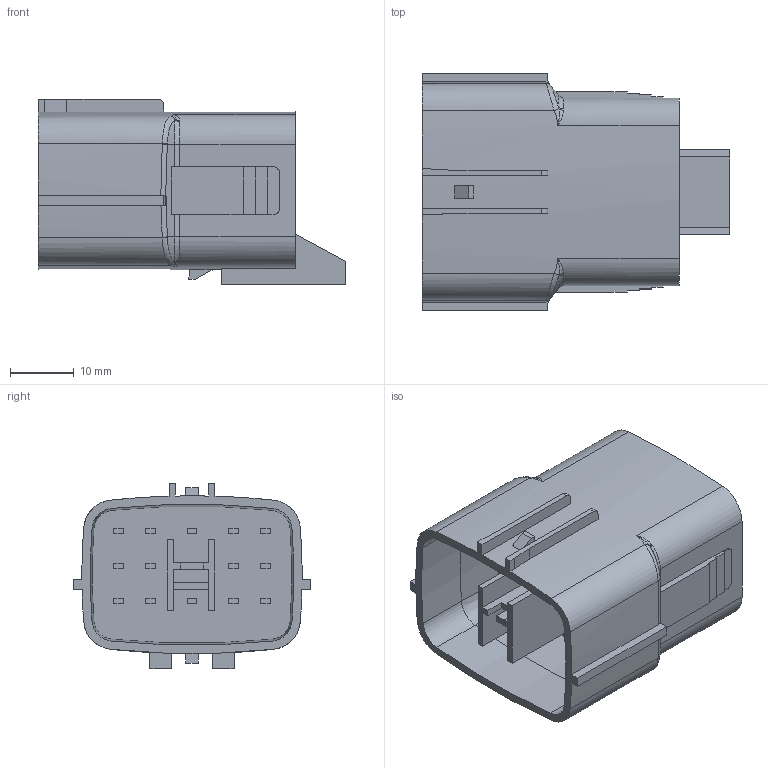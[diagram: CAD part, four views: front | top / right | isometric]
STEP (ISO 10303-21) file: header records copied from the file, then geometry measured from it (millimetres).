
FILE_DESCRIPTION(('CATIA V5 STEP Exchange','CAx-IF Rec.Pracs.--- Model Styling and Organization---1.2---2011-12-15'),'2;1');
FILE_NAME('N:\C-DAM_MyDesk\ENV\900093\6181-0629.stp','2015-08-18T02:17:13+00:00',('none'),('none'),'CATIA Version 5-6 Release 2012 SP4 HF74','CATIA V5 STEP AP214','none');
FILE_SCHEMA(('AUTOMOTIVE_DESIGN { 1 0 10303 214 1 1 1 1 }'));
Length unit declared in the file: millimetre
Products named in the file (1): 6181-0629
Bounding box: 48.2 x 37.1 x 29.1 mm (x, y, z)
Volume: 20335.9 mm3; surface area: 9596.3 mm2
Topology: 1 solids, 1 shells, 287 faces, 725 edges, 467 vertices
Faces by surface type: plane 187, cylinder 60, bspline 24, cone 12, torus 4
Entity records: 9134 total; most frequent: CARTESIAN_POINT 2746, ORIENTED_EDGE 1442, DIRECTION 1031, EDGE_CURVE 721, VECTOR 508, LINE 508, VERTEX_POINT 467, AXIS2_PLACEMENT_3D 327
